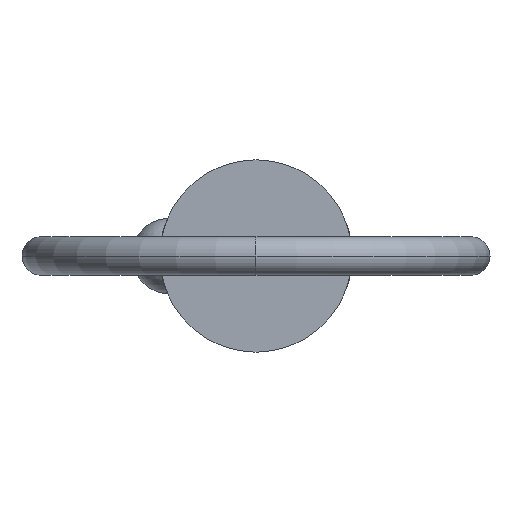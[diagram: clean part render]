
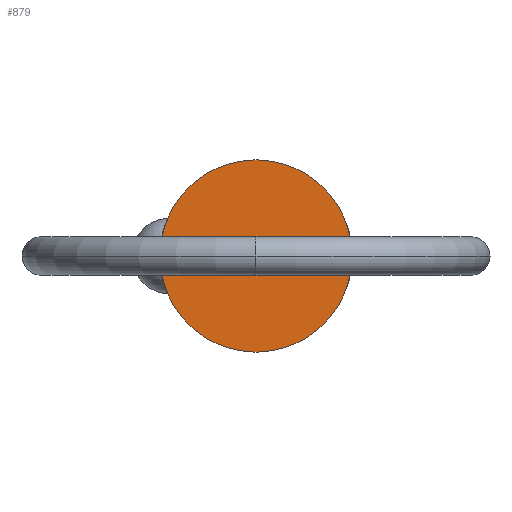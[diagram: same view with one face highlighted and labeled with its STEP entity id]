
A CAD part, left-side view. The second image highlights one B-rep face of the part: STEP entity #879.
In plain terms, the highlighted planar face has unit normal (-1, 0, 0).
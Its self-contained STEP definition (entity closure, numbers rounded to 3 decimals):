
#13 = DIRECTION ( 'NONE',  ( 0., 0., -1. ) ) ;
#40 = ORIENTED_EDGE ( 'NONE', *, *, #426, .F. ) ;
#58 = CARTESIAN_POINT ( 'NONE',  ( 0., 0., 7.11 ) ) ;
#160 = AXIS2_PLACEMENT_3D ( 'NONE', #494, #431, #13 ) ;
#170 = EDGE_CURVE ( 'NONE', #346, #580, #459, .T. ) ;
#180 = EDGE_LOOP ( 'NONE', ( #40, #238 ) ) ;
#206 = DIRECTION ( 'NONE',  ( -1., 0., 0. ) ) ;
#238 = ORIENTED_EDGE ( 'NONE', *, *, #170, .F. ) ;
#323 = DIRECTION ( 'NONE',  ( 0., 0., -1. ) ) ;
#327 = CARTESIAN_POINT ( 'NONE',  ( 0., 0., 0. ) ) ;
#346 = VERTEX_POINT ( 'NONE', #58 ) ;
#399 = CIRCLE ( 'NONE', #160, 7.11 ) ;
#426 = EDGE_CURVE ( 'NONE', #580, #346, #399, .T. ) ;
#431 = DIRECTION ( 'NONE',  ( 1., 0., 0. ) ) ;
#459 = CIRCLE ( 'NONE', #587, 7.11 ) ;
#479 = DIRECTION ( 'NONE',  ( 0., 0., 1. ) ) ;
#494 = CARTESIAN_POINT ( 'NONE',  ( 0., 0., 0. ) ) ;
#548 = PLANE ( 'NONE',  #578 ) ;
#578 = AXIS2_PLACEMENT_3D ( 'NONE', #826, #206, #479 ) ;
#580 = VERTEX_POINT ( 'NONE', #786 ) ;
#587 = AXIS2_PLACEMENT_3D ( 'NONE', #327, #667, #323 ) ;
#667 = DIRECTION ( 'NONE',  ( 1., 0., 0. ) ) ;
#671 = FACE_OUTER_BOUND ( 'NONE', #180, .T. ) ;
#786 = CARTESIAN_POINT ( 'NONE',  ( 0., 0., -7.11 ) ) ;
#826 = CARTESIAN_POINT ( 'NONE',  ( 0., 0., 0. ) ) ;
#879 = ADVANCED_FACE ( 'NONE', ( #671 ), #548, .T. ) ;
